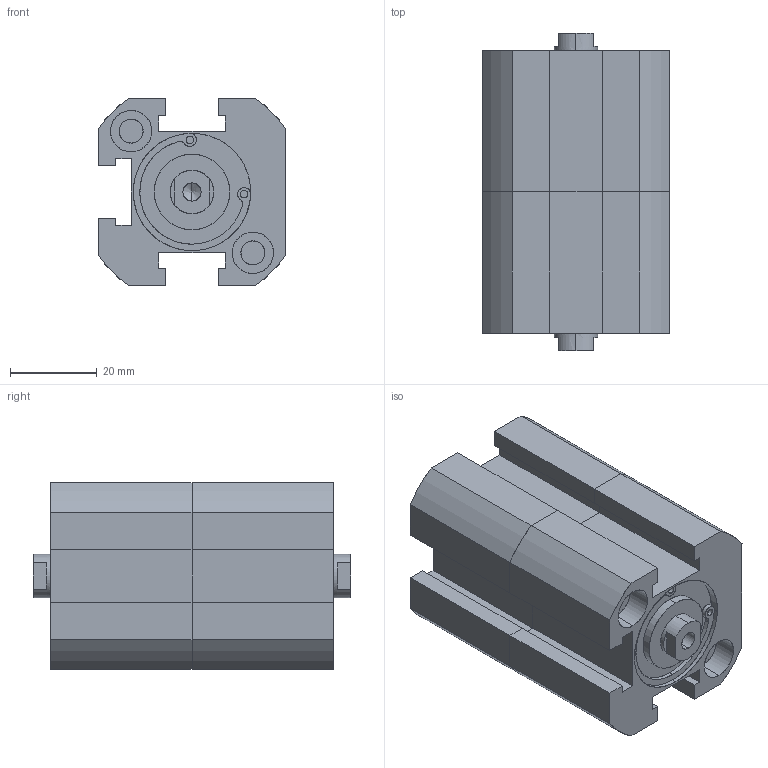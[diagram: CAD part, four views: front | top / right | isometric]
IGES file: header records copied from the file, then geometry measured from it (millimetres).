
Start section: SolidWorks IGES file using analytic representation for surfaces
Global section: file name: C:\Users\Toshiba\Desktop\XCD7-25-10-10.IGS; native system: SolidWorks 2014; preprocessor: SolidWorks 2014; author: Toshiba; date: 160805.093848; units: millimetre
Bounding box: 43 x 73 x 43 mm (x, y, z)
Surface area: 24802.8 mm2 (no closed solid volume)
Topology: 0 solids, 0 shells, 184 faces, 2612 edges, 2600 vertices
Faces by surface type: revolution 96, bspline 88
